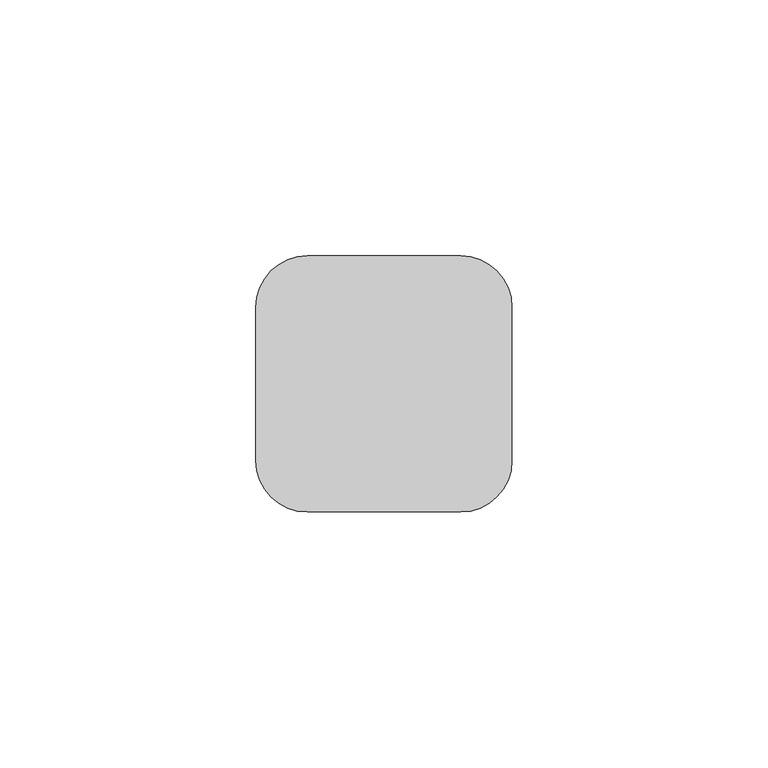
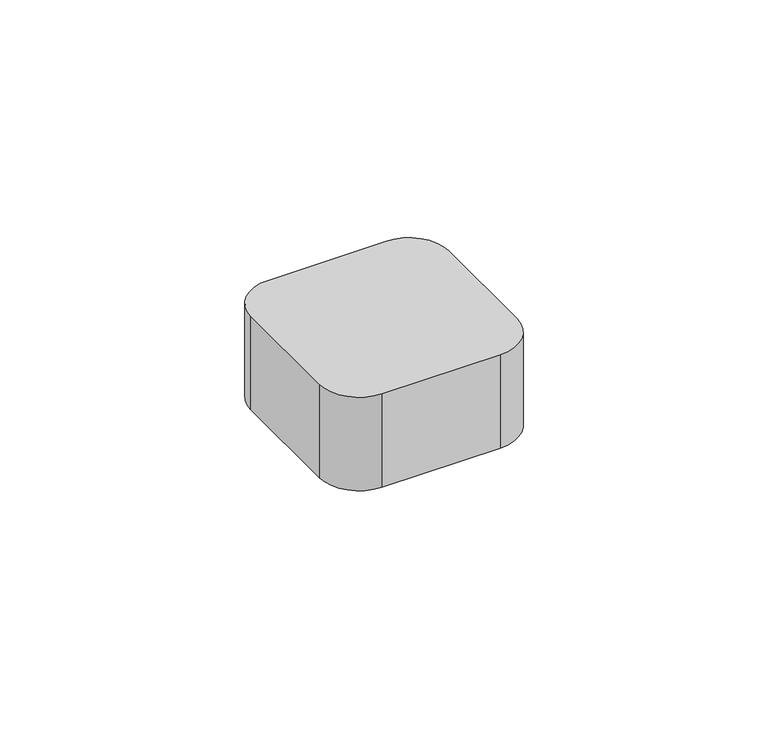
"""IFC4 building model written with IfcOpenShell, lengths in millimetres: proxy geometry, Pixel_M : Pixel_M."""

from ifc_helpers import new_model, si_unit, point, frame, frame_2d, origin, place, context, project, spatial, polyline, circle_curve, trimmed, segment, composite_curve, outline, extrude, source, transform, mapped, element, save


def generic_models_afde289c(model_context):
    return source(origin(), model_context, "Body", "SweptSolid", [
        extrude(outline(composite_curve([segment(trimmed(circle_curve(frame_2d((10.0, 40.0)), 10.0), [point((0.0, 40.0))], [point((10.0, 50.0))], False, "CARTESIAN"), True, "CONTINUOUS"), segment(polyline([(10.0, 50.0), (40.0, 50.0)]), True, "CONTINUOUS"), segment(trimmed(circle_curve(frame_2d((40.0, 40.0)), 10.0), [point((40.0, 50.0))], [point((50.0, 40.0))], False, "CARTESIAN"), True, "CONTINUOUS"), segment(polyline([(50.0, 40.0), (50.0, 10.0)]), True, "CONTINUOUS"), segment(trimmed(circle_curve(frame_2d((40.0, 10.0)), 10.0), [point((50.0, 10.0))], [point((40.0, 0.0))], False, "CARTESIAN"), True, "CONTINUOUS"), segment(polyline([(40.0, 0.0), (10.0, 0.0)]), True, "CONTINUOUS"), segment(trimmed(circle_curve(frame_2d((10.0, 10.0)), 10.0), [point((10.0, 0.0))], [point((0.0, 10.0))], False, "CARTESIAN"), True, "CONTINUOUS"), segment(polyline([(0.0, 10.0), (0.0, 40.0)]), True, "CONTINUOUS")], self_intersect=False)), frame((0.0, 0.0, 35.0), z_axis=(0.0, 0.0, 1.0), x_axis=(1.0, 0.0, 0.0)), (0.0, 0.0, 1.0), 25.0),
    ])


if __name__ == "__main__":
    model = new_model("IFC4")
    model_context = context("Model", 3, world=origin())
    ifc_project = project(units=[si_unit("LENGTHUNIT", "METRE", prefix="MILLI")], contexts=[model_context])
    site = spatial("IfcSite", under=ifc_project)
    building = spatial("IfcBuilding", under=site)
    placement = place(None, origin())
    generic_models_shape = generic_models_afde289c(model_context)
    element("IfcBuildingElementProxy", 1, Name="Pixel_M : Pixel_M", ObjectType="Pixel_M : Pixel_M", at=placement, inside=building, context=model_context, shape_type="MappedRepresentation", body=[
        mapped(generic_models_shape, transform((0.0, 0.0, 0.0), x_axis=(1.0, 0.0, 0.0), y_axis=(0.0, 1.0, 0.0), z_axis=(0.0, 0.0, 1.0))),
    ])
    save(model, "model.ifc")
